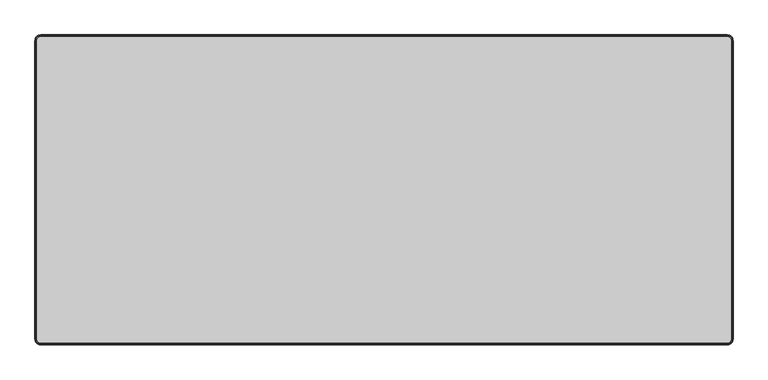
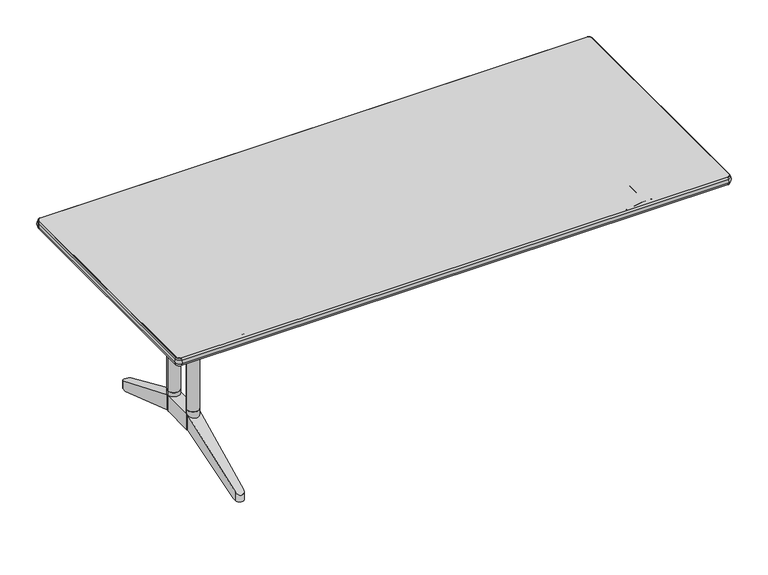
"""IFC4 building model written with IfcOpenShell, lengths in millimetres: furniture geometry."""

from ifc_helpers import new_model, si_unit, point, frame, frame_2d, origin, place, context, project, spatial, polyline, circle_curve, ellipse_curve, trimmed, segment, composite_curve, outline, extrude, source, transform, mapped, element, save
from ifc_brep_helpers import plane_surface, cylinder_surface, revolved_surface, advanced_brep


def furniture_2a83199a(model_context):
    return source(origin(), model_context, "Body", "SolidModel", [
        extrude(outline(composite_curve([segment(trimmed(circle_curve(frame_2d((-660.4, -154.0488451)), 20.0), [point((-680.4, -154.0488451))], [point((-640.4, -154.0488451))], False, "CARTESIAN"), True, "CONTINUOUS"), segment(trimmed(circle_curve(frame_2d((-660.4, -154.0488451)), 20.0), [point((-640.4, -154.0488451))], [point((-680.4, -154.0488451))], False, "CARTESIAN"), True, "CONTINUOUS")], self_intersect=False)), frame((0.0, 0.0, 193.3080085), z_axis=(0.0, 0.0, 1.0), x_axis=(1.0, 0.0, 0.0)), (0.0, 0.0, 1.0), 68.8536941),
        extrude(outline(composite_curve([segment(trimmed(circle_curve(frame_2d((-660.4, -44.0488461)), 20.0), [point((-680.4, -44.0488461))], [point((-640.4, -44.0488461))], False, "CARTESIAN"), True, "CONTINUOUS"), segment(trimmed(circle_curve(frame_2d((-660.4, -44.0488461)), 20.0), [point((-640.4, -44.0488461))], [point((-680.4, -44.0488461))], False, "CARTESIAN"), True, "CONTINUOUS")], self_intersect=False)), frame((0.0, 0.0, 193.3080085), z_axis=(0.0, 0.0, 1.0), x_axis=(1.0, 0.0, 0.0)), (0.0, 0.0, 1.0), 68.8536941),
        extrude(outline(composite_curve([segment(trimmed(circle_curve(frame_2d((-660.4, -154.0488451)), 20.0), [point((-680.4, -154.0488451))], [point((-640.4, -154.0488451))], False, "CARTESIAN"), True, "CONTINUOUS"), segment(trimmed(circle_curve(frame_2d((-660.4, -154.0488451)), 20.0), [point((-640.4, -154.0488451))], [point((-680.4, -154.0488451))], False, "CARTESIAN"), True, "CONTINUOUS")], self_intersect=False)), frame((0.0, 0.0, 262.1617027), z_axis=(0.0, 0.0, 1.0), x_axis=(1.0, 0.0, 0.0)), (0.0, 0.0, 1.0), 318.0882973),
        extrude(outline(composite_curve([segment(trimmed(circle_curve(frame_2d((-660.4, -44.0488461)), 20.0), [point((-680.4, -44.0488461))], [point((-640.4, -44.0488461))], False, "CARTESIAN"), True, "CONTINUOUS"), segment(trimmed(circle_curve(frame_2d((-660.4, -44.0488461)), 20.0), [point((-640.4, -44.0488461))], [point((-680.4, -44.0488461))], False, "CARTESIAN"), True, "CONTINUOUS")], self_intersect=False)), frame((0.0, 0.0, 262.1617027), z_axis=(0.0, 0.0, 1.0), x_axis=(1.0, 0.0, 0.0)), (0.0, 0.0, 1.0), 318.0882973),
        extrude(outline(polyline([(-634.3999882, 147.9511612), (-634.3999882, -352.0488426), (-686.4000118, -352.0488426), (-686.4000118, 147.9511612), (-634.3999882, 147.9511612)])), frame((0.0, 0.0, 676.2500168), z_axis=(0.0, 0.0, 1.0), x_axis=(1.0, 0.0, 0.0)), (0.0, 0.0, 1.0), 27.9999624),
        advanced_brep(
        [(-675.3998762, -140.8200278, 676.2500168), (-645.3998905, -140.8201331, 676.2500168), (-645.3998905, -134.0488456, 676.2500168), (-675.3998762, -134.0488456, 676.2500168), (-645.3998905, -57.2775581, 676.2500168), (-675.3998762, -57.2776634, 676.2500168), (-675.3998762, -64.0488456, 676.2500168), (-645.3998905, -64.0488456, 676.2500168), (-675.3998762, -57.2776634, 580.25), (-645.3998905, -57.2775581, 580.25), (-645.3998905, -140.8201331, 580.25), (-675.3998762, -140.8200278, 580.25), (-675.3998762, -134.0488456, 598.2500176), (-675.3998762, -64.0488456, 598.2500176), (-645.3998905, -64.0488456, 598.2500176), (-645.3998905, -134.0488456, 598.2500176)],
        [
            (0, 1, circle_curve(frame((-660.3999298, -154.0488451, 676.2500168), z_axis=(0.0, 0.0, 1.0), x_axis=(1.0, 0.0, 0.0)), 20.0)),
            (1, 2),
            (2, 3),
            (3, 0),
            (4, 5, circle_curve(frame((-660.3999298, -44.0488461, 676.2500168), z_axis=(0.0, 0.0, 1.0), x_axis=(1.0, 0.0, 0.0)), 20.0)),
            (5, 6),
            (6, 7),
            (7, 4),
            (8, 9, circle_curve(frame((-660.3999298, -44.0488461, 580.25), z_axis=(0.0, 0.0, -1.0), x_axis=(1.0, 0.0, 0.0)), 20.0)),
            (9, 10),
            (10, 11, circle_curve(frame((-660.3999298, -154.0488451, 580.25), z_axis=(0.0, 0.0, -1.0), x_axis=(1.0, 0.0, 0.0)), 20.0)),
            (11, 8),
            (11, 0),
            (3, 12),
            (12, 13),
            (13, 6),
            (5, 8),
            (10, 1),
            (9, 4),
            (7, 14),
            (14, 15),
            (15, 2),
            (15, 12),
            (14, 13),
        ],
        [
            plane_surface(frame((-675.3998762, -140.8200278, 676.2500168), z_axis=(0.0, 0.0, 1.0), x_axis=(0.0, -1.0, 0.0))),
            plane_surface(frame((-675.3998762, -140.8200278, 580.25), z_axis=(0.0, 0.0, -1.0), x_axis=(0.0, 1.0, 0.0))),
            plane_surface(frame((-675.3998762, -57.2776634, 676.2500168), z_axis=(-1.0, 0.0, 0.0), x_axis=(0.0, 0.0, -1.0))),
            cylinder_surface(frame((-660.3999298, -154.0488451, 580.25), z_axis=(0.0, 0.0, 1.0), x_axis=(1.0, 0.0, 0.0)), 20.0),
            plane_surface(frame((-645.3998905, -140.8201331, 676.2500168), z_axis=(1.0, 0.0, 0.0), x_axis=(0.0, 0.0, -1.0))),
            cylinder_surface(frame((-660.3999298, -44.0488461, 580.25), z_axis=(0.0, 0.0, 1.0), x_axis=(1.0, 0.0, 0.0)), 20.0),
            plane_surface(frame((-645.3998905, -134.0488456, 676.2500168), z_axis=(0.0, 1.0, 0.0), x_axis=(-1.0, 0.0, 0.0))),
            plane_surface(frame((-645.3998905, -134.0488456, 598.2500176), z_axis=(0.0, 0.0, 1.0), x_axis=(-1.0, 0.0, 0.0))),
            plane_surface(frame((-645.3998905, -64.0488456, 598.2500176), z_axis=(0.0, -1.0, 0.0), x_axis=(-1.0, 0.0, 0.0))),
        ],
        [
            (0, [[1, 2, 3, 4]]),
            (0, [[5, 6, 7, 8]]),
            (1, [[9, 10, 11, 12]]),
            (2, [[-12, 13, -4, 14, 15, 16, -6, 17]]),
            (3, [[-1, -13, -11, 18]]),
            (4, [[-10, 19, -8, 20, 21, 22, -2, -18]]),
            (5, [[-5, -19, -9, -17]]),
            (6, [[23, -14, -3, -22]]),
            (7, [[-23, -21, 24, -15]]),
            (8, [[-24, -20, -7, -16]]),
        ],
    ),
        advanced_brep(
        [(-640.4000182, -154.0488451, 248.3080085), (-640.4000182, -44.0488461, 248.3080085), (-680.4000182, -44.0488461, 248.3080085), (-680.4000182, -154.0488451, 248.3080085), (-680.4000182, -44.0488461, 193.3080085), (-680.4000182, -154.0488451, 193.3080085), (-640.4000182, -154.0488451, 193.3080085), (-640.4000182, -44.0488461, 193.3080085), (-646.9271049, 208.4135103, 105.0), (-673.872897, 208.4135103, 105.0), (-673.5262294, 221.8222582, 105.0), (-647.2737706, 221.8222564, 105.0), (-673.5262294, 221.8222582, 133.4205559), (-647.2737706, 221.8222564, 133.4205567), (-640.6000412, -36.3121196, 193.3080085), (-680.1999941, -36.3121196, 193.3080085), (-647.2737706, -419.9199475, 133.4205567), (-673.5262294, -419.9199493, 133.4205559), (-647.2737706, -419.9199475, 105.0), (-646.9271049, -406.5112014, 105.0), (-640.6000412, -161.7855715, 193.3080085), (-673.5262294, -419.9199493, 105.0), (-680.1999941, -161.7855715, 193.3080085), (-673.872897, -406.5112014, 105.0)],
        [
            (0, 1),
            (1, 2),
            (2, 3),
            (3, 0),
            (2, 4),
            (4, 5),
            (5, 3),
            (0, 6),
            (6, 7),
            (7, 1),
            (8, 9),
            (9, 10),
            (10, 11, circle_curve(frame((-660.4, 221.4828948, 105.0), z_axis=(0.0, 0.0, -1.0), x_axis=(1.0, 0.0, 0.0)), 13.1306156)),
            (11, 8),
            (12, 2),
            (1, 13),
            (13, 12, ellipse_curve(frame((-660.4, 221.4828948, 133.5672007), z_axis=(0.0, 0.3966672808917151, 0.9179624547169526), x_axis=(0.0, 0.9179624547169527, -0.39666728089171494)), 14.3040878, 13.1306156)),
            (8, 14),
            (14, 15),
            (15, 9),
            (16, 0),
            (3, 17),
            (17, 16, ellipse_curve(frame((-660.4, -419.5805859, 133.5672007), z_axis=(0.0, -0.3966672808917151, 0.9179624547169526), x_axis=(0.0, -0.9179624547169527, -0.39666728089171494)), 14.3040878, 13.1306156)),
            (16, 18),
            (18, 19),
            (19, 20),
            (20, 6),
            (17, 21),
            (21, 18, circle_curve(frame((-660.4, -419.5805859, 105.0), z_axis=(0.0, 0.0, 1.0), x_axis=(1.0, 0.0, 0.0)), 13.1306156)),
            (5, 22),
            (22, 23),
            (23, 21),
            (12, 10),
            (15, 4),
            (13, 11),
            (7, 14),
            (23, 19),
            (22, 20),
        ],
        [
            plane_surface(frame((-640.4000182, -44.0488461, 248.3080085), z_axis=(0.0, 0.0, 1.0), x_axis=(0.0, 1.0, 0.0))),
            plane_surface(frame((-680.4000182, -44.0488461, 248.3080085), z_axis=(-1.0, 0.0, 0.0), x_axis=(0.0, 0.0, -1.0))),
            plane_surface(frame((-640.4000182, -154.0488451, 248.3080085), z_axis=(1.0, 0.0, 0.0), x_axis=(0.0, 0.0, -1.0))),
            plane_surface(frame((-639.0205415, 208.4135103, 105.0), z_axis=(0.0, 0.0, -1.0), x_axis=(-1.0, 0.0, 0.0))),
            plane_surface(frame((-639.0205415, 235.9511544, 127.3152182), z_axis=(0.0, 0.3966672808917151, 0.9179624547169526), x_axis=(-1.0, 0.0, 0.0))),
            plane_surface(frame((-639.0205415, -36.3121196, 193.3080085), z_axis=(0.0, -0.3394229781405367, -0.9406338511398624), x_axis=(-1.0, 0.0, 0.0))),
            plane_surface(frame((-639.0205415, -154.0488451, 248.3080085), z_axis=(0.0, -0.3966672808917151, 0.9179624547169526), x_axis=(-1.0, 0.0, 0.0))),
            plane_surface(frame((-640.4000182, -154.0488451, 249.0000084), z_axis=(0.9996659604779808, -0.025845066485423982, 0.0), x_axis=(0.0, 0.0, -1.0))),
            cylinder_surface(frame((-660.4, -419.5805859, 90.0000025), z_axis=(0.0, 0.0, -1.0), x_axis=(1.0, 0.0, 0.0)), 13.1306156),
            plane_surface(frame((-673.5262294, -419.9199493, 249.0000084), z_axis=(-0.9996659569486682, -0.025845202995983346, 0.0), x_axis=(0.0, 0.0, -1.0))),
            plane_surface(frame((-680.4000182, -44.0488461, 249.0000084), z_axis=(-0.9996659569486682, 0.025845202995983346, 0.0), x_axis=(0.0, 0.0, -1.0))),
            cylinder_surface(frame((-660.4, 221.4828948, 0.0), z_axis=(0.0, 0.0, -1.0), x_axis=(1.0, 0.0, 0.0)), 13.1306156),
            plane_surface(frame((-647.2737706, 221.8222564, 249.0000084), z_axis=(0.9996659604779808, 0.025845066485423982, 0.0), x_axis=(0.0, 0.0, -1.0))),
            plane_surface(frame((-639.0205415, -434.0488456, 105.0), z_axis=(0.0, 0.0, -1.0), x_axis=(-1.0, 0.0, 0.0))),
            plane_surface(frame((-639.0205415, -406.5112014, 105.0), z_axis=(0.0, 0.3394229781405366, -0.9406338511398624), x_axis=(-1.0, 0.0, 0.0))),
            plane_surface(frame((-639.0205415, -44.0488461, 193.3080085), z_axis=(0.0, 0.0, -1.0), x_axis=(-1.0, 0.0, 0.0))),
        ],
        [
            (0, [[1, 2, 3, 4]]),
            (1, [[-3, 5, 6, 7]]),
            (2, [[-1, 8, 9, 10]]),
            (3, [[11, 12, 13, 14]]),
            (4, [[15, -2, 16, 17]]),
            (5, [[-11, 18, 19, 20]]),
            (6, [[21, -4, 22, 23]]),
            (7, [[24, 25, 26, 27, -8, -21]]),
            (8, [[-24, -23, 28, 29]]),
            (9, [[-28, -22, -7, 30, 31, 32]]),
            (10, [[33, -12, -20, 34, -5, -15]]),
            (11, [[-33, -17, 35, -13]]),
            (12, [[-35, -16, -10, 36, -18, -14]]),
            (13, [[37, -25, -29, -32]]),
            (14, [[-37, -31, 38, -26]]),
            (15, [[-19, -36, -9, -27, -38, -30, -6, -34]]),
        ],
    ),
        extrude(outline(composite_curve([segment(trimmed(circle_curve(frame_2d((-899.4, 292.3511544)), 10.0), [point((-909.4, 292.3511544))], [point((-899.4, 302.3511544))], False, "CARTESIAN"), True, "CONTINUOUS"), segment(polyline([(-899.4, 302.3511544), (899.4, 302.3511544)]), True, "CONTINUOUS"), segment(trimmed(circle_curve(frame_2d((899.4, 292.3511544)), 10.0), [point((899.4, 302.3511544))], [point((909.4, 292.3511544))], False, "CARTESIAN"), True, "CONTINUOUS"), segment(polyline([(909.4, 292.3511544), (909.4, -490.4488456)]), True, "CONTINUOUS"), segment(trimmed(circle_curve(frame_2d((899.4, -490.4488456)), 10.0), [point((909.4, -490.4488456))], [point((899.4, -500.4488456))], False, "CARTESIAN"), True, "CONTINUOUS"), segment(polyline([(899.4, -500.4488456), (-899.4, -500.4488456)]), True, "CONTINUOUS"), segment(trimmed(circle_curve(frame_2d((-899.4, -490.4488456)), 10.0), [point((-899.4, -500.4488456))], [point((-909.4, -490.4488456))], False, "CARTESIAN"), True, "CONTINUOUS"), segment(polyline([(-909.4, -490.4488456), (-909.4, 292.3511544)]), True, "CONTINUOUS")], self_intersect=False)), frame((0.0, 0.0, 704.2499792), z_axis=(0.0, 0.0, 1.0), x_axis=(1.0, 0.0, 0.0)), (0.0, 0.0, 1.0), 26.0000208),
        extrude(outline(composite_curve([segment(trimmed(circle_curve(frame_2d((690.249998, -660.4)), 3.5), [point((686.749998, -660.4))], [point((693.749998, -660.4))], False, "CARTESIAN"), True, "CONTINUOUS"), segment(trimmed(circle_curve(frame_2d((690.249998, -660.4)), 3.5), [point((693.749998, -660.4))], [point((686.749998, -660.4))], False, "CARTESIAN"), True, "CONTINUOUS")], self_intersect=False)), frame((0.0, -431.8394749, 0.0), z_axis=(0.0, 1.0, 0.0), x_axis=(0.0, 0.0, 1.0)), (0.0, 0.0, 1.0), 79.7906323),
        extrude(outline(composite_curve([segment(trimmed(circle_curve(frame_2d((690.249998, 660.4)), 3.5), [point((686.749998, 660.4))], [point((693.749998, 660.4))], False, "CARTESIAN"), True, "CONTINUOUS"), segment(trimmed(circle_curve(frame_2d((690.249998, 660.4)), 3.5), [point((693.749998, 660.4))], [point((686.749998, 660.4))], False, "CARTESIAN"), True, "CONTINUOUS")], self_intersect=False)), frame((0.0, -431.8394749, 0.0), z_axis=(0.0, 1.0, 0.0), x_axis=(0.0, 0.0, 1.0)), (0.0, 0.0, 1.0), 79.7906323),
        advanced_brep(
        [(-899.4, -500.4488456, 704.2499792), (-909.4, -490.4488456, 704.2499792), (-909.4, -490.4488456, 730.25), (-899.4, -500.4488456, 730.25), (-899.4, -503.8983863, 710.6562743), (-912.8495407, -490.4488456, 710.6562743), (-910.6436764, -490.4488456, 704.2499792), (-899.4, -501.692522, 704.2499792), (-899.4, -503.8983863, 723.843705), (-912.8495407, -490.4488456, 723.843705), (-899.4, -501.692522, 730.25), (-910.6436764, -490.4488456, 730.25), (899.4, -500.4488456, 730.25), (899.4, -500.4488456, 704.2499792), (899.4, -501.692522, 704.2499792), (899.4, -503.8983863, 710.6562743), (899.4, -503.8983863, 723.843705), (899.4, -501.692522, 730.25), (909.4, -490.4488456, 704.2499792), (909.4, -490.4488456, 730.25), (912.8495407, -490.4488456, 710.6562743), (910.6436764, -490.4488456, 704.2499792), (912.8495407, -490.4488456, 723.843705), (910.6436764, -490.4488456, 730.25), (909.4, 292.3511544, 730.25), (909.4, 292.3511544, 704.2499792), (910.6436764, 292.3511544, 704.2499792), (912.8495407, 292.3511544, 710.6562743), (912.8495407, 292.3511544, 723.843705), (910.6436764, 292.3511544, 730.25), (899.4, 302.3511544, 704.2499792), (899.4, 302.3511544, 730.25), (899.4, 305.8006952, 710.6562743), (899.4, 303.5948309, 704.2499792), (899.4, 305.8006952, 723.843705), (899.4, 303.5948309, 730.25), (-899.4, 302.3511544, 730.25), (-899.4, 302.3511544, 704.2499792), (-899.4, 303.5948309, 704.2499792), (-899.4, 305.8006952, 710.6562743), (-899.4, 305.8006952, 723.843705), (-899.4, 303.5948309, 730.25), (-909.4, 292.3511544, 704.2499792), (-909.4, 292.3511544, 730.25), (-912.8495407, 292.3511544, 710.6562743), (-910.6436764, 292.3511544, 704.2499792), (-912.8495407, 292.3511544, 723.843705), (-910.6436764, 292.3511544, 730.25)],
        [
            (0, 1, circle_curve(frame((-899.4, -490.4488456, 704.2499792), z_axis=(0.0, 0.0, -1.0), x_axis=(-1.0, 0.0, 0.0)), 10.0)),
            (1, 2),
            (2, 3, circle_curve(frame((-899.4, -490.4488456, 730.25), z_axis=(0.0, 0.0, 1.0), x_axis=(-1.0, 0.0, 0.0)), 10.0)),
            (3, 0),
            (4, 5, circle_curve(frame((-899.4, -490.4488456, 710.6562743), z_axis=(0.0, 0.0, -1.0), x_axis=(-1.0, 0.0, 0.0)), 13.4495407)),
            (5, 6),
            (6, 7, circle_curve(frame((-899.4, -490.4488456, 704.2499792), z_axis=(0.0, 0.0, 1.0), x_axis=(-1.0, 0.0, 0.0)), 11.2436764)),
            (7, 4),
            (8, 9, circle_curve(frame((-899.4, -490.4488456, 723.843705), z_axis=(0.0, 0.0, -1.0), x_axis=(-1.0, 0.0, 0.0)), 13.4495407)),
            (9, 5, circle_curve(frame((-899.6040596, -490.4488456, 717.2499896), z_axis=(0.0, -1.0, 0.0), x_axis=(1.0, 0.0, 0.0)), 14.7959404)),
            (4, 8, circle_curve(frame((-899.4, -490.6529051, 717.2499896), z_axis=(-1.0, 0.0, 0.0), x_axis=(0.0, 1.0, 0.0)), 14.7959404)),
            (10, 11, circle_curve(frame((-899.4, -490.4488456, 730.25), z_axis=(0.0, 0.0, -1.0), x_axis=(-1.0, 0.0, 0.0)), 11.2436764)),
            (11, 9),
            (8, 10),
            (3, 12),
            (12, 13),
            (13, 0),
            (7, 14),
            (14, 15),
            (15, 4),
            (15, 16, circle_curve(frame((899.4, -490.6529051, 717.2499896), z_axis=(-1.0, 0.0, 0.0), x_axis=(0.0, 1.0, 0.0)), 14.7959404)),
            (16, 8),
            (16, 17),
            (17, 10),
            (18, 13, circle_curve(frame((899.4, -490.4488456, 704.2499792), z_axis=(0.0, 0.0, -1.0), x_axis=(0.0, -1.0, 0.0)), 10.0)),
            (12, 19, circle_curve(frame((899.4, -490.4488456, 730.25), z_axis=(0.0, 0.0, 1.0), x_axis=(0.0, -1.0, 0.0)), 10.0)),
            (19, 18),
            (20, 15, circle_curve(frame((899.4, -490.4488456, 710.6562743), z_axis=(0.0, 0.0, -1.0), x_axis=(0.0, -1.0, 0.0)), 13.4495407)),
            (14, 21, circle_curve(frame((899.4, -490.4488456, 704.2499792), z_axis=(0.0, 0.0, 1.0), x_axis=(0.0, -1.0, 0.0)), 11.2436764)),
            (21, 20),
            (22, 16, circle_curve(frame((899.4, -490.4488456, 723.843705), z_axis=(0.0, 0.0, -1.0), x_axis=(0.0, -1.0, 0.0)), 13.4495407)),
            (20, 22, circle_curve(frame((899.6040596, -490.4488456, 717.2499896), z_axis=(0.0, -1.0, 0.0), x_axis=(-1.0, 0.0, 0.0)), 14.7959404)),
            (23, 17, circle_curve(frame((899.4, -490.4488456, 730.25), z_axis=(0.0, 0.0, -1.0), x_axis=(0.0, -1.0, 0.0)), 11.2436764)),
            (22, 23),
            (19, 24),
            (24, 25),
            (25, 18),
            (21, 26),
            (26, 27),
            (27, 20),
            (27, 28, circle_curve(frame((899.6040596, 292.3511544, 717.2499896), z_axis=(0.0, -1.0, 0.0), x_axis=(-1.0, 0.0, 0.0)), 14.7959404)),
            (28, 22),
            (28, 29),
            (29, 23),
            (30, 25, circle_curve(frame((899.4, 292.3511544, 704.2499792), z_axis=(0.0, 0.0, -1.0), x_axis=(1.0, 0.0, 0.0)), 10.0)),
            (24, 31, circle_curve(frame((899.4, 292.3511544, 730.25), z_axis=(0.0, 0.0, 1.0), x_axis=(1.0, 0.0, 0.0)), 10.0)),
            (31, 30),
            (32, 27, circle_curve(frame((899.4, 292.3511544, 710.6562743), z_axis=(0.0, 0.0, -1.0), x_axis=(1.0, 0.0, 0.0)), 13.4495407)),
            (26, 33, circle_curve(frame((899.4, 292.3511544, 704.2499792), z_axis=(0.0, 0.0, 1.0), x_axis=(1.0, 0.0, 0.0)), 11.2436764)),
            (33, 32),
            (34, 28, circle_curve(frame((899.4, 292.3511544, 723.843705), z_axis=(0.0, 0.0, -1.0), x_axis=(1.0, 0.0, 0.0)), 13.4495407)),
            (32, 34, circle_curve(frame((899.4, 292.555214, 717.2499896), z_axis=(1.0, 0.0, 0.0), x_axis=(0.0, -1.0, 0.0)), 14.7959404)),
            (35, 29, circle_curve(frame((899.4, 292.3511544, 730.25), z_axis=(0.0, 0.0, -1.0), x_axis=(1.0, 0.0, 0.0)), 11.2436764)),
            (34, 35),
            (31, 36),
            (36, 37),
            (37, 30),
            (33, 38),
            (38, 39),
            (39, 32),
            (39, 40, circle_curve(frame((-899.4, 292.555214, 717.2499896), z_axis=(1.0, 0.0, 0.0), x_axis=(0.0, -1.0, 0.0)), 14.7959404)),
            (40, 34),
            (40, 41),
            (41, 35),
            (42, 37, circle_curve(frame((-899.4, 292.3511544, 704.2499792), z_axis=(0.0, 0.0, -1.0), x_axis=(0.0, 1.0, 0.0)), 10.0)),
            (36, 43, circle_curve(frame((-899.4, 292.3511544, 730.25), z_axis=(0.0, 0.0, 1.0), x_axis=(0.0, 1.0, 0.0)), 10.0)),
            (43, 42),
            (44, 39, circle_curve(frame((-899.4, 292.3511544, 710.6562743), z_axis=(0.0, 0.0, -1.0), x_axis=(0.0, 1.0, 0.0)), 13.4495407)),
            (38, 45, circle_curve(frame((-899.4, 292.3511544, 704.2499792), z_axis=(0.0, 0.0, 1.0), x_axis=(0.0, 1.0, 0.0)), 11.2436764)),
            (45, 44),
            (46, 40, circle_curve(frame((-899.4, 292.3511544, 723.843705), z_axis=(0.0, 0.0, -1.0), x_axis=(0.0, 1.0, 0.0)), 13.4495407)),
            (44, 46, circle_curve(frame((-899.6040596, 292.3511544, 717.2499896), z_axis=(0.0, 1.0, 0.0), x_axis=(1.0, 0.0, 0.0)), 14.7959404)),
            (47, 41, circle_curve(frame((-899.4, 292.3511544, 730.25), z_axis=(0.0, 0.0, -1.0), x_axis=(0.0, 1.0, 0.0)), 11.2436764)),
            (46, 47),
            (43, 2),
            (1, 42),
            (45, 6),
            (5, 44),
            (9, 46),
            (11, 47),
        ],
        [
            revolved_surface(polyline([(-909.4, -490.4488456, 730.25), (-909.4, -490.4488456, 704.2499792)]), (-899.4, -490.4488456, 730.25), (0.0, 0.0, 1.0)),
            revolved_surface(polyline([(-910.6436764, -490.4488456, 704.2499792), (-912.8495407, -490.4488456, 710.6562743)]), (-899.4, -490.4488456, 730.25), (0.0, 0.0, 1.0)),
            revolved_surface(trimmed(ellipse_curve(frame((-899.6040596, -490.4488456, 717.2499896), z_axis=(0.0, 1.0, 0.0), x_axis=(1.0, 0.0, 0.0)), 14.7959404, 14.7959404), [point((-912.8495407, -490.4488456, 710.6562743))], [point((-912.8495407, -490.4488456, 723.843705))], True, "CARTESIAN"), (-899.4, -490.4488456, 730.25), (0.0, 0.0, 1.0)),
            revolved_surface(polyline([(-912.8495407, -490.4488456, 723.843705), (-910.6436764, -490.4488456, 730.25)]), (-899.4, -490.4488456, 730.25), (0.0, 0.0, 1.0)),
            plane_surface(frame((-899.4, -500.4488456, 730.25), z_axis=(0.0, 1.0, 0.0), x_axis=(1.0, 0.0, 0.0))),
            plane_surface(frame((-899.4, -501.692522, 704.2499792), z_axis=(0.0, -0.9455185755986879, -0.32556815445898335), x_axis=(1.0, 0.0, 0.0))),
            cylinder_surface(frame((-899.4, -490.6529051, 717.2499896), z_axis=(-1.0, 0.0, 0.0), x_axis=(0.0, 1.0, 0.0)), 14.7959404),
            plane_surface(frame((-899.4, -503.8983863, 723.843705), z_axis=(0.0, -0.945518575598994, 0.32556815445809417), x_axis=(1.0, 0.0, 0.0))),
            revolved_surface(polyline([(899.4, -500.4488456, 730.25), (899.4, -500.4488456, 704.2499792)]), (899.4, -490.4488456, 730.25), (0.0, 0.0, 1.0)),
            revolved_surface(polyline([(899.4, -501.692522, 704.2499792), (899.4, -503.8983863, 710.6562743)]), (899.4, -490.4488456, 730.25), (0.0, 0.0, 1.0)),
            revolved_surface(trimmed(ellipse_curve(frame((899.4, -490.6529051, 717.2499896), z_axis=(-1.0, 0.0, 0.0), x_axis=(0.0, 1.0, 0.0)), 14.7959404, 14.7959404), [point((899.4, -503.8983863, 710.6562743))], [point((899.4, -503.8983863, 723.843705))], True, "CARTESIAN"), (899.4, -490.4488456, 730.25), (0.0, 0.0, 1.0)),
            revolved_surface(polyline([(899.4, -503.8983863, 723.843705), (899.4, -501.692522, 730.25)]), (899.4, -490.4488456, 730.25), (0.0, 0.0, 1.0)),
            plane_surface(frame((909.4, -490.4488456, 730.25), z_axis=(-1.0, 0.0, 0.0), x_axis=(0.0, 1.0, 0.0))),
            plane_surface(frame((910.6436764, -490.4488456, 704.2499792), z_axis=(0.9455185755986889, 0.0, -0.32556815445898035), x_axis=(0.0, 1.0, 0.0))),
            cylinder_surface(frame((899.6040596, -490.4488456, 717.2499896), z_axis=(0.0, -1.0, 0.0), x_axis=(-1.0, 0.0, 0.0)), 14.7959404),
            plane_surface(frame((912.8495407, -490.4488456, 723.843705), z_axis=(0.945518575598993, 0.0, 0.32556815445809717), x_axis=(0.0, 1.0, 0.0))),
            revolved_surface(polyline([(909.4, 292.3511544, 730.25), (909.4, 292.3511544, 704.2499792)]), (899.4, 292.3511544, 730.25), (0.0, 0.0, 1.0)),
            revolved_surface(polyline([(910.6436764, 292.3511544, 704.2499792), (912.8495407, 292.3511544, 710.6562743)]), (899.4, 292.3511544, 730.25), (0.0, 0.0, 1.0)),
            revolved_surface(trimmed(ellipse_curve(frame((899.6040596, 292.3511544, 717.2499896), z_axis=(0.0, -1.0, 0.0), x_axis=(-1.0, 0.0, 0.0)), 14.7959404, 14.7959404), [point((912.8495407, 292.3511544, 710.6562743))], [point((912.8495407, 292.3511544, 723.843705))], True, "CARTESIAN"), (899.4, 292.3511544, 730.25), (0.0, 0.0, 1.0)),
            revolved_surface(polyline([(912.8495407, 292.3511544, 723.843705), (910.6436764, 292.3511544, 730.25)]), (899.4, 292.3511544, 730.25), (0.0, 0.0, 1.0)),
            plane_surface(frame((899.4, 302.3511544, 730.25), z_axis=(0.0, -1.0, 0.0), x_axis=(-1.0, 0.0, 0.0))),
            plane_surface(frame((899.4, 303.5948309, 704.2499792), z_axis=(0.0, 0.9455185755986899, -0.32556815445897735), x_axis=(-1.0, 0.0, 0.0))),
            cylinder_surface(frame((899.4, 292.555214, 717.2499896), z_axis=(1.0, 0.0, 0.0), x_axis=(0.0, -1.0, 0.0)), 14.7959404),
            plane_surface(frame((899.4, 305.8006952, 723.843705), z_axis=(0.0, 0.945518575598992, 0.32556815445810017), x_axis=(-1.0, 0.0, 0.0))),
            revolved_surface(polyline([(-899.4, 302.3511544, 730.25), (-899.4, 302.3511544, 704.2499792)]), (-899.4, 292.3511544, 730.25), (0.0, 0.0, 1.0)),
            revolved_surface(polyline([(-899.4, 303.5948309, 704.2499792), (-899.4, 305.8006952, 710.6562743)]), (-899.4, 292.3511544, 730.25), (0.0, 0.0, 1.0)),
            revolved_surface(trimmed(ellipse_curve(frame((-899.4, 292.555214, 717.2499896), z_axis=(1.0, 0.0, 0.0), x_axis=(0.0, -1.0, 0.0)), 14.7959404, 14.7959404), [point((-899.4, 305.8006952, 710.6562743))], [point((-899.4, 305.8006952, 723.843705))], True, "CARTESIAN"), (-899.4, 292.3511544, 730.25), (0.0, 0.0, 1.0)),
            revolved_surface(polyline([(-899.4, 305.8006952, 723.843705), (-899.4, 303.5948309, 730.25)]), (-899.4, 292.3511544, 730.25), (0.0, 0.0, 1.0)),
            plane_surface(frame((-909.4, 292.3511544, 730.25), z_axis=(1.0, 0.0, 0.0), x_axis=(0.0, -1.0, 0.0))),
            plane_surface(frame((-910.6436764, 292.3511544, 704.2499792), z_axis=(-0.9455185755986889, 0.0, -0.32556815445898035), x_axis=(0.0, -1.0, 0.0))),
            cylinder_surface(frame((-899.6040596, 292.3511544, 717.2499896), z_axis=(0.0, 1.0, 0.0), x_axis=(1.0, 0.0, 0.0)), 14.7959404),
            plane_surface(frame((-912.8495407, 292.3511544, 723.843705), z_axis=(-0.945518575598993, 0.0, 0.32556815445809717), x_axis=(0.0, -1.0, 0.0))),
            plane_surface(frame((-909.4, 292.3511544, 704.2499792), z_axis=(0.0, 0.0, -1.0), x_axis=(0.0, -1.0, 0.0))),
            plane_surface(frame((-910.6436764, 292.3511544, 730.25), z_axis=(0.0, 0.0, 1.0), x_axis=(0.0, -1.0, 0.0))),
        ],
        [
            (0, [[1, 2, 3, 4]]),
            (1, [[5, 6, 7, 8]]),
            (2, [[9, 10, -5, 11]]),
            (3, [[12, 13, -9, 14]]),
            (4, [[-4, 15, 16, 17]]),
            (5, [[-8, 18, 19, 20]]),
            (6, [[-11, -20, 21, 22]]),
            (7, [[-14, -22, 23, 24]]),
            (8, [[25, -16, 26, 27]]),
            (9, [[28, -19, 29, 30]]),
            (10, [[31, -21, -28, 32]]),
            (11, [[33, -23, -31, 34]]),
            (12, [[-27, 35, 36, 37]]),
            (13, [[-30, 38, 39, 40]]),
            (14, [[-32, -40, 41, 42]]),
            (15, [[-34, -42, 43, 44]]),
            (16, [[45, -36, 46, 47]]),
            (17, [[48, -39, 49, 50]]),
            (18, [[51, -41, -48, 52]]),
            (19, [[53, -43, -51, 54]]),
            (20, [[-47, 55, 56, 57]]),
            (21, [[-50, 58, 59, 60]]),
            (22, [[-52, -60, 61, 62]]),
            (23, [[-54, -62, 63, 64]]),
            (24, [[65, -56, 66, 67]]),
            (25, [[68, -59, 69, 70]]),
            (26, [[71, -61, -68, 72]]),
            (27, [[73, -63, -71, 74]]),
            (28, [[-67, 75, -2, 76]]),
            (29, [[-70, 77, -6, 78]]),
            (30, [[-72, -78, -10, 79]]),
            (31, [[-74, -79, -13, 80]]),
            (32, [[-77, -69, -58, -49, -38, -29, -18, -7], [-57, -65, -76, -1, -17, -25, -37, -45]]),
            (33, [[-64, -73, -80, -12, -24, -33, -44, -53], [-75, -66, -55, -46, -35, -26, -15, -3]]),
        ],
    ),
        advanced_brep(
        [(-686.3999286, -431.8394749, 701.9835614), (-686.3999286, -431.8394749, 686.9835614), (-605.5927788, -431.8394749, 678.983541), (-604.400359, -431.8394749, 693.983541), (604.400359, -431.8394749, 693.983541), (605.5927788, -431.8394749, 678.983541), (686.2748715, -431.8394749, 701.9835614), (686.2748715, -431.8394749, 686.9835614), (654.4003594, -431.8394749, 701.9835614), (655.5927792, -431.8394749, 686.9835614), (-654.4003594, -431.8394749, 701.9835614), (-655.5927792, -431.8394749, 686.9835614)],
        [
            (0, 1, circle_curve(frame((-686.3999286, -431.8394749, 694.4835614), z_axis=(-1.0, 0.0, 0.0), x_axis=(0.0, 0.0, -1.0)), 7.5)),
            (1, 0, circle_curve(frame((-686.3999286, -431.8394749, 694.4835614), z_axis=(-1.0, 0.0, 0.0), x_axis=(0.0, 0.0, -1.0)), 7.5)),
            (2, 3, ellipse_curve(frame((-604.9965689, -431.8394749, 686.483541), z_axis=(0.9968551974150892, 0.0, -0.07924465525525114), x_axis=(-0.07924465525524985, 0.0, -0.9968551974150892)), 7.5236604, 7.5)),
            (3, 4),
            (4, 5, ellipse_curve(frame((604.9965689, -431.8394749, 686.483541), z_axis=(-0.9968551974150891, 0.0, -0.07924465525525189), x_axis=(-0.0792446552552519, 0.0, 0.9968551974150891)), 7.5236604, 7.5)),
            (5, 2),
            (3, 2, ellipse_curve(frame((-604.9965689, -431.8394749, 686.483541), z_axis=(0.9968551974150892, 0.0, -0.07924465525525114), x_axis=(-0.07924465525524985, 0.0, -0.9968551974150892)), 7.5236604, 7.5)),
            (5, 4, ellipse_curve(frame((604.9965689, -431.8394749, 686.483541), z_axis=(-0.9968551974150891, 0.0, -0.07924465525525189), x_axis=(-0.0792446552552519, 0.0, 0.9968551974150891)), 7.5236604, 7.5)),
            (6, 7, circle_curve(frame((686.2748715, -431.8394749, 694.4835614), z_axis=(1.0, 0.0, 0.0), x_axis=(0.0, 0.0, -1.0)), 7.5)),
            (7, 6, circle_curve(frame((686.2748715, -431.8394749, 694.4835614), z_axis=(1.0, 0.0, 0.0), x_axis=(0.0, 0.0, -1.0)), 7.5)),
            (4, 8),
            (8, 9, ellipse_curve(frame((654.9965693, -431.8394749, 694.4835614), z_axis=(-0.9968551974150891, 0.0, -0.07924465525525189), x_axis=(0.0792446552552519, 0.0, -0.9968551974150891)), 7.5236604, 7.5)),
            (9, 5),
            (9, 8, ellipse_curve(frame((654.9965693, -431.8394749, 694.4835614), z_axis=(-0.9968551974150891, 0.0, -0.07924465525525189), x_axis=(0.0792446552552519, 0.0, -0.9968551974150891)), 7.5236604, 7.5)),
            (8, 6),
            (7, 9),
            (0, 10),
            (10, 11, ellipse_curve(frame((-654.9965693, -431.8394749, 694.4835614), z_axis=(-0.9968551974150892, 0.0, 0.07924465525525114), x_axis=(-0.07924465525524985, 0.0, -0.9968551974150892)), 7.5236604, 7.5)),
            (11, 1),
            (11, 10, ellipse_curve(frame((-654.9965693, -431.8394749, 694.4835614), z_axis=(-0.9968551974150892, 0.0, 0.07924465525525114), x_axis=(-0.07924465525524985, 0.0, -0.9968551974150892)), 7.5236604, 7.5)),
            (10, 3),
            (2, 11),
        ],
        [
            plane_surface(frame((-686.3999286, -505.4488456, 664.2500082), z_axis=(-1.0, 0.0, 0.0), x_axis=(0.0, 1.0, 0.0))),
            cylinder_surface(frame((-607.3999746, -431.8394749, 686.483541), z_axis=(-1.0, 0.0, 0.0), x_axis=(0.0, 0.0, -1.0)), 7.5),
            plane_surface(frame((686.2748715, -505.4488456, 664.2500082), z_axis=(1.0, 0.0, 0.0), x_axis=(0.0, 1.0, 0.0))),
            cylinder_surface(frame((602.6233486, -431.8394749, 686.1038248), z_axis=(-0.9874405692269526, 0.0, -0.1579908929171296), x_axis=(0.1579908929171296, 0.0, -0.9874405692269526)), 7.5),
            cylinder_surface(frame((657.399975, -431.8394749, 694.4835614), z_axis=(-1.0, 0.0, 0.0), x_axis=(0.0, 0.0, -1.0)), 7.5),
            cylinder_surface(frame((-686.3999286, -431.8394749, 694.4835614), z_axis=(-1.0, 0.0, 0.0), x_axis=(0.0, 0.0, -1.0)), 7.5),
            cylinder_surface(frame((-652.6233489, -431.8394749, 694.1038452), z_axis=(-0.9874405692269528, 0.0, 0.15799089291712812), x_axis=(-0.15799089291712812, 0.0, -0.9874405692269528)), 7.5),
        ],
        [
            (0, [[1, 2]]),
            (1, [[3, 4, 5, 6]]),
            (1, [[7, -6, 8, -4]]),
            (2, [[9, 10]]),
            (3, [[-5, 11, 12, 13]]),
            (3, [[-8, -13, 14, -11]]),
            (4, [[-12, 15, -10, 16]]),
            (4, [[-14, -16, -9, -15]]),
            (5, [[-1, 17, 18, 19]]),
            (5, [[-2, -19, 20, -17]]),
            (6, [[-18, 21, -3, 22]]),
            (6, [[-20, -22, -7, -21]]),
        ],
    ),
        extrude(outline(polyline([(-66.0488461, 600.2500046), (-66.0488461, 658.2500254), (-64.0488456, 658.2500254), (-64.0488456, 598.2500176), (-134.0488456, 598.2500176), (-134.0488456, 658.2500254), (-132.048845, 658.2500254), (-132.048845, 600.2500046), (-66.0488461, 600.2500046)])), frame((-675.4, 0.0, 0.0), z_axis=(1.0, 0.0, 0.0), x_axis=(0.0, 1.0, 0.0)), (0.0, 0.0, 1.0), 1350.8),
    ])


if __name__ == "__main__":
    model = new_model("IFC4")
    model_context = context("Model", 3, world=origin())
    ifc_project = project(units=[si_unit("LENGTHUNIT", "METRE", prefix="MILLI")], contexts=[model_context])
    site = spatial("IfcSite", under=ifc_project)
    building = spatial("IfcBuilding", under=site)
    placement = place(None, origin())
    furniture_shape = furniture_2a83199a(model_context)
    element("IfcFurniture", 1, ObjectType="Furniture_Wilkhahn_Timetable_614-00_Shift : 32\"W x 72\"L", at=placement, inside=building, context=model_context, shape_type="MappedRepresentation", body=[
        mapped(furniture_shape, transform((0.0, 0.0, 0.0), x_axis=(1.0, 0.0, 0.0), y_axis=(0.0, 1.0, 0.0), z_axis=(0.0, 0.0, 1.0))),
    ])
    save(model, "model.ifc")
